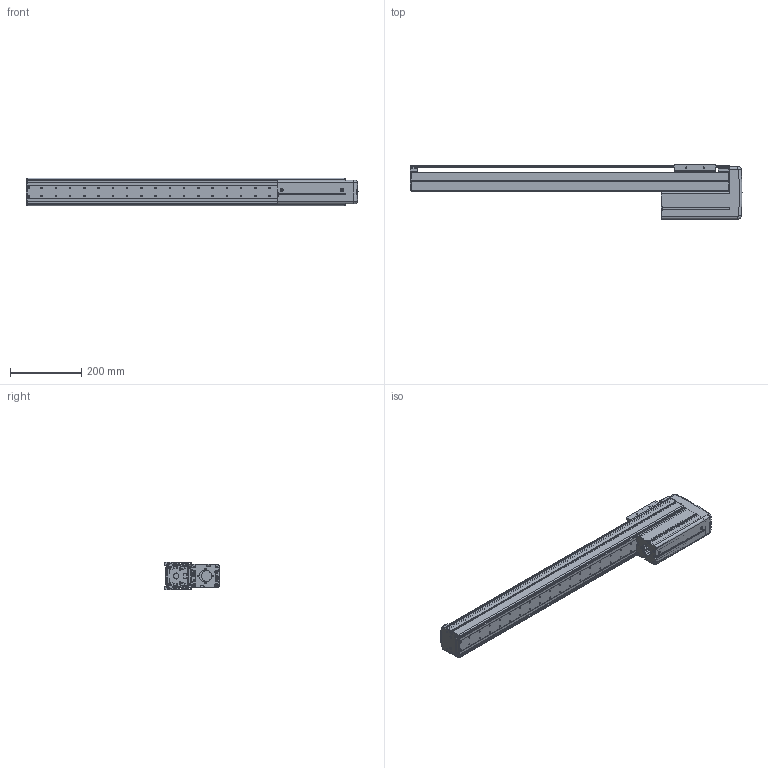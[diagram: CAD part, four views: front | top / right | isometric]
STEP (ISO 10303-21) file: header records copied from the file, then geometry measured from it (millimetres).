
FILE_DESCRIPTION((''),'2;1');
FILE_NAME('BE10E-UU-M_B-70_IGS_PRT','2017-06-17T',(' '),(''),'PRO/ENGINEER BY PARAMETRIC TECHNOLOGY CORPORATION, 2015030','PRO/ENGINEER BY PARAMETRIC TECHNOLOGY CORPORATION, 2015030','');
FILE_SCHEMA(('CONFIG_CONTROL_DESIGN'));
Length unit declared in the file: millimetre
Products named in the file (1): BE10E-UU-M_B-70_IGS_PRT
Bounding box: 932 x 153 x 78 mm (x, y, z)
Volume: 1401533.1 mm3; surface area: 956690 mm2
Topology: 2 solids, 119 shells, 1827 faces, 4942 edges, 3210 vertices
Faces by surface type: cylinder 881, plane 718, cone 81, torus 71, sphere 44, bspline 32
Entity records: 59774 total; most frequent: CARTESIAN_POINT 12598, DIRECTION 10234, ORIENTED_EDGE 9366, EDGE_CURVE 4906, AXIS2_PLACEMENT_3D 3824, VERTEX_POINT 3210, VECTOR 2586, LINE 2586
